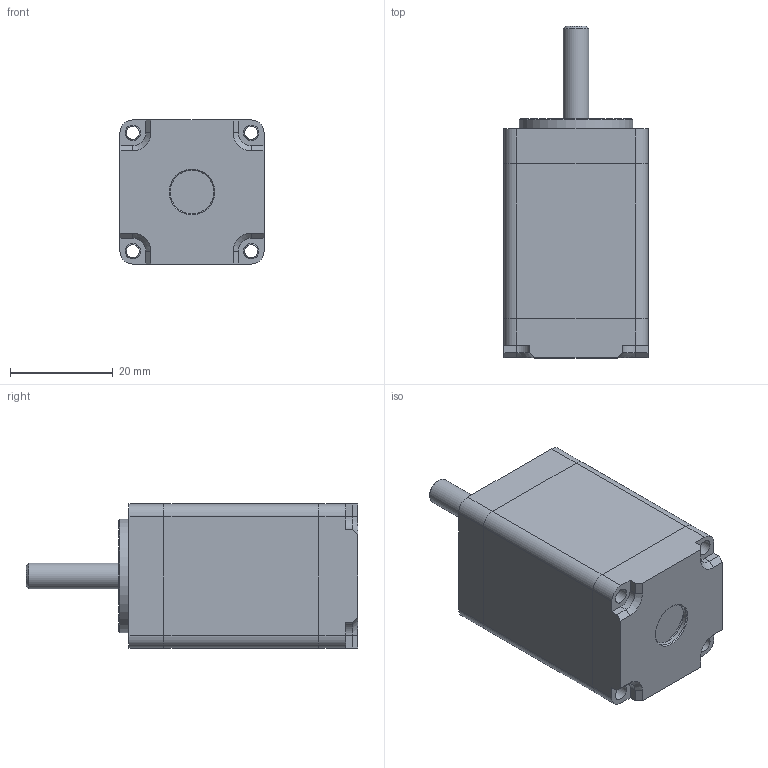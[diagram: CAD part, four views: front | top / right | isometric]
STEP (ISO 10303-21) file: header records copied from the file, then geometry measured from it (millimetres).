
FILE_DESCRIPTION(/* description */ (''),/* implementation_level */ '2;1');
FILE_NAME(/* name */ 'C:\Users\raffaele\Downloads\Projects\E&D\ipt-to-step-conversion\SLDPRT to STP\28SH45.stp',/* time_stamp */ '2021-04-07T17:16:14+02:00',/* author */ ('raffaele'),/* organization */ (''),/* preprocessor_version */ 'ST-DEVELOPER v18.1',/* originating_system */ 'Autodesk Inventor 2021',/* authorisation */ '');
FILE_SCHEMA (('AUTOMOTIVE_DESIGN { 1 0 10303 214 3 1 1 }'));
Length unit declared in the file: inch
Products named in the file (1): 28SH45
Bounding box: 28 x 64.5 x 28 mm (x, y, z)
Surface area: 7708.9 mm2 (no closed solid volume)
Topology: 0 solids, 7 shells, 84 faces, 215 edges, 139 vertices
Faces by surface type: plane 40, cylinder 32, cone 12
Full cylindrical faces by diameter (mm): 2.5 x4, 3 x4, 5 x1, 8.5 x1, 10 x1, 10.5 x1, 13 x1, 22 x1, 23 x1, 25.5 x1
Entity records: 2687 total; most frequent: DIRECTION 464, CARTESIAN_POINT 439, ORIENTED_EDGE 382, EDGE_CURVE 215, AXIS2_PLACEMENT_3D 164, VERTEX_POINT 139, LINE 136, VECTOR 136
